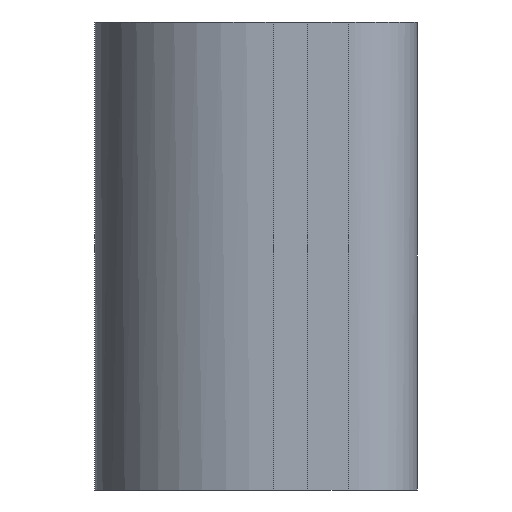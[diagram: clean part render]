
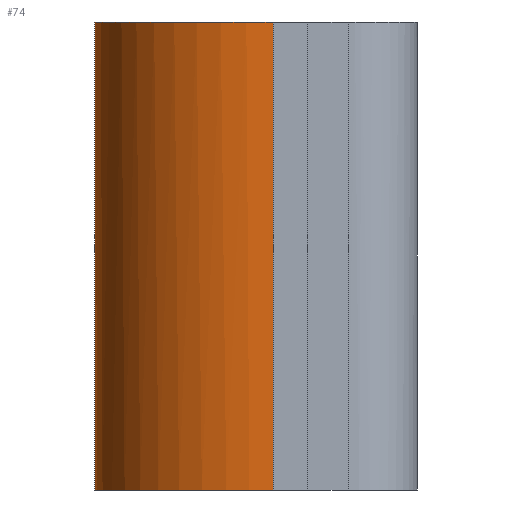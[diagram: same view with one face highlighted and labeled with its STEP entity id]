
A CAD part, left-side view. The second image highlights one B-rep face of the part: STEP entity #74.
In plain terms, the highlighted free-form (B-spline) face has degree [3, 1] with [4, 2] control points.
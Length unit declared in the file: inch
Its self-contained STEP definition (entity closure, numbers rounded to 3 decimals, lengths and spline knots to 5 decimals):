
#74=ADVANCED_FACE('',(#164),#165,.T.);
#164=FACE_OUTER_BOUND('',#287,.T.);
#165=B_SPLINE_SURFACE_WITH_KNOTS('',3,1,((#288,#289),(#290,#291),(#292,#293),(#294,#295)),.UNSPECIFIED.,.F.,.F.,.F.,(4,4),(2,2),(0.0,1.0),(0.0,0.8125),.UNSPECIFIED.);
#287=EDGE_LOOP('',(#494,#495,#496,#497));
#288=CARTESIAN_POINT('',(0.31014,0.37017,0.0));
#289=CARTESIAN_POINT('',(0.31014,0.37017,0.8125));
#290=CARTESIAN_POINT('',(0.13886,0.37017,0.0));
#291=CARTESIAN_POINT('',(0.13886,0.37017,0.8125));
#292=CARTESIAN_POINT('',(0.0,0.23131,0.0));
#293=CARTESIAN_POINT('',(0.0,0.23131,0.8125));
#294=CARTESIAN_POINT('',(0.0,0.06003,0.0));
#295=CARTESIAN_POINT('',(0.0,0.06003,0.8125));
#494=ORIENTED_EDGE('',*,*,#658,.T.);
#495=ORIENTED_EDGE('',*,*,#659,.F.);
#496=ORIENTED_EDGE('',*,*,#660,.T.);
#497=ORIENTED_EDGE('',*,*,#661,.T.);
#658=EDGE_CURVE('',#733,#734,#735,.T.);
#659=EDGE_CURVE('',#736,#734,#737,.T.);
#660=EDGE_CURVE('',#736,#738,#739,.T.);
#661=EDGE_CURVE('',#738,#733,#740,.T.);
#733=VERTEX_POINT('',#844);
#734=VERTEX_POINT('',#845);
#735=B_SPLINE_CURVE_WITH_KNOTS('',3,(#846,#847,#848,#849),.UNSPECIFIED.,.F.,.F.,(4,4),(-1.0,-0.0),.UNSPECIFIED.);
#736=VERTEX_POINT('',#850);
#737=LINE('',#851,#852);
#738=VERTEX_POINT('',#853);
#739=B_SPLINE_CURVE_WITH_KNOTS('',3,(#854,#855,#856,#857),.UNSPECIFIED.,.F.,.F.,(4,4),(0.0,1.0),.UNSPECIFIED.);
#740=LINE('',#858,#859);
#844=CARTESIAN_POINT('',(0.0,0.06003,0.8125));
#845=CARTESIAN_POINT('',(0.31014,0.37017,0.8125));
#846=CARTESIAN_POINT('',(0.0,0.06003,0.8125));
#847=CARTESIAN_POINT('',(0.0,0.23131,0.8125));
#848=CARTESIAN_POINT('',(0.13886,0.37017,0.8125));
#849=CARTESIAN_POINT('',(0.31014,0.37017,0.8125));
#850=CARTESIAN_POINT('',(0.31014,0.37017,0.0));
#851=CARTESIAN_POINT('',(0.31014,0.37017,0.0));
#852=VECTOR('',#1048,1.0);
#853=CARTESIAN_POINT('',(0.0,0.06003,0.0));
#854=CARTESIAN_POINT('',(0.31014,0.37017,0.0));
#855=CARTESIAN_POINT('',(0.13886,0.37017,0.0));
#856=CARTESIAN_POINT('',(0.0,0.23131,0.0));
#857=CARTESIAN_POINT('',(0.0,0.06003,0.0));
#858=CARTESIAN_POINT('',(0.0,0.06003,0.0));
#859=VECTOR('',#1049,1.0);
#1048=DIRECTION('',(0.0,0.0,1.0));
#1049=DIRECTION('',(0.0,0.0,1.0));
